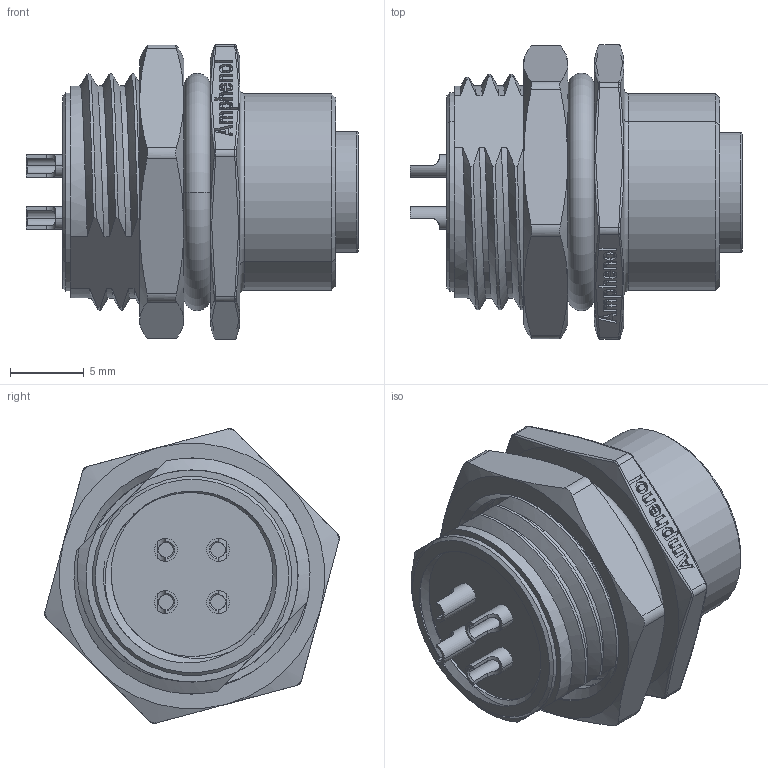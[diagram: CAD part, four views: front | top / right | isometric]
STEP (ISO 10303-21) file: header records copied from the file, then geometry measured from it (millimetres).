
FILE_DESCRIPTION((''),'2;1');
FILE_NAME('M12A-05PFFS-SH8002','2016-04-07T',('KS6143'),(''),'PRO/ENGINEER BY PARAMETRIC TECHNOLOGY CORPORATION, 2013050','PRO/ENGINEER BY PARAMETRIC TECHNOLOGY CORPORATION, 2013050','');
FILE_SCHEMA(('CONFIG_CONTROL_DESIGN'));
Products named in the file (1): M12A-05PFFS-SH8002
Bounding box: 22.5 x 19.96 x 19.96 mm (x, y, z)
Volume: 3131.3 mm3; surface area: 3479 mm2
Topology: 1 solids, 1 shells, 715 faces, 1886 edges, 1221 vertices
Faces by surface type: plane 252, extrusion 144, cylinder 135, bspline 98, cone 61, torus 23, sphere 2
Entity records: 45515 total; most frequent: CARTESIAN_POINT 23858, ORIENTED_EDGE 3772, DIRECTION 2584, EDGE_CURVE 1886, VERTEX_POINT 1221, VECTOR 1032, LINE 888, PRESENTATION_STYLE_ASSIGNMENT 843
